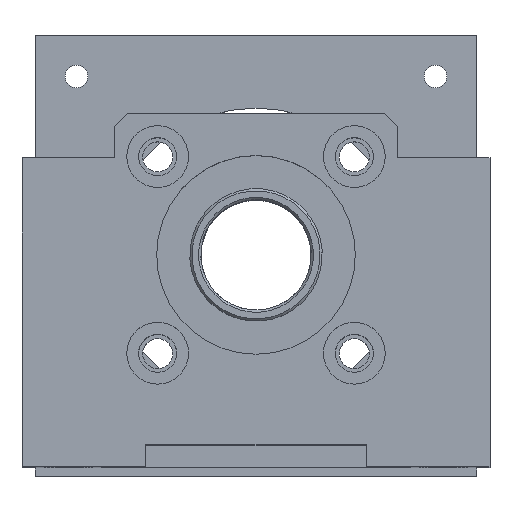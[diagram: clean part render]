
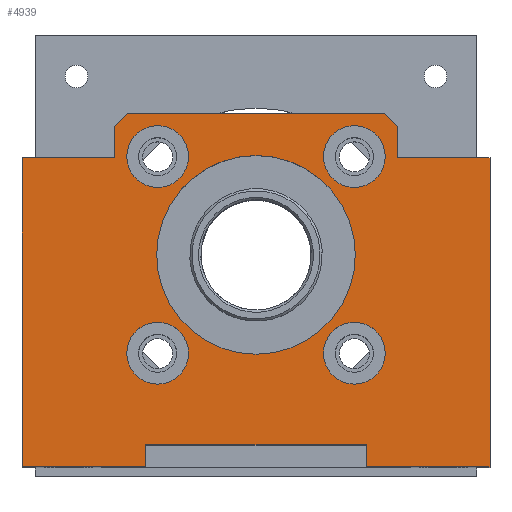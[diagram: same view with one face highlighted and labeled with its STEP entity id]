
A CAD part, top view. The second image highlights one B-rep face of the part: STEP entity #4939.
In plain terms, the highlighted planar face has unit normal (0, 0, 1).
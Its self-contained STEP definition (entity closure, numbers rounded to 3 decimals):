
#2011=DIRECTION('',(1.,0.,0.));
#2012=VECTOR('',#2011,28.);
#2013=CARTESIAN_POINT('',(-53.,-48.,257.));
#2014=LINE('',#2013,#2012);
#2074=DIRECTION('',(1.,0.,0.));
#2075=VECTOR('',#2074,28.);
#2076=CARTESIAN_POINT('',(25.,-48.,257.));
#2077=LINE('',#2076,#2075);
#2263=DIRECTION('',(-1.,0.,0.));
#2264=VECTOR('',#2263,21.);
#2265=CARTESIAN_POINT('',(-32.,22.,257.));
#2266=LINE('',#2265,#2264);
#2554=DIRECTION('',(-1.,0.,0.));
#2555=VECTOR('',#2554,21.);
#2556=CARTESIAN_POINT('',(53.,22.,257.));
#2557=LINE('',#2556,#2555);
#2666=DIRECTION('',(0.,1.,0.));
#2667=VECTOR('',#2666,7.);
#2668=CARTESIAN_POINT('',(32.,22.,257.));
#2669=LINE('',#2668,#2667);
#2678=DIRECTION('',(0.707,0.707,0.));
#2679=VECTOR('',#2678,4.243);
#2680=CARTESIAN_POINT('',(-32.,29.,257.));
#2681=LINE('',#2680,#2679);
#2682=DIRECTION('',(0.707,-0.707,0.));
#2683=VECTOR('',#2682,4.243);
#2684=CARTESIAN_POINT('',(29.,32.,257.));
#2685=LINE('',#2684,#2683);
#2686=CARTESIAN_POINT('',(22.274,-22.274,257.));
#2687=DIRECTION('',(0.,0.,1.));
#2688=DIRECTION('',(1.,0.,0.));
#2689=AXIS2_PLACEMENT_3D('',#2686,#2687,#2688);
#2691=CARTESIAN_POINT('',(22.274,-22.274,257.));
#2692=DIRECTION('',(0.,0.,1.));
#2693=DIRECTION('',(-1.,0.,0.));
#2694=AXIS2_PLACEMENT_3D('',#2691,#2692,#2693);
#2696=CARTESIAN_POINT('',(-22.274,22.274,257.));
#2697=DIRECTION('',(0.,0.,1.));
#2698=DIRECTION('',(1.,0.,0.));
#2699=AXIS2_PLACEMENT_3D('',#2696,#2697,#2698);
#2701=CARTESIAN_POINT('',(-22.274,22.274,257.));
#2702=DIRECTION('',(0.,0.,1.));
#2703=DIRECTION('',(-1.,0.,0.));
#2704=AXIS2_PLACEMENT_3D('',#2701,#2702,#2703);
#2706=CARTESIAN_POINT('',(-22.274,-22.274,257.));
#2707=DIRECTION('',(0.,0.,1.));
#2708=DIRECTION('',(1.,0.,0.));
#2709=AXIS2_PLACEMENT_3D('',#2706,#2707,#2708);
#2711=CARTESIAN_POINT('',(-22.274,-22.274,257.));
#2712=DIRECTION('',(0.,0.,1.));
#2713=DIRECTION('',(-1.,0.,0.));
#2714=AXIS2_PLACEMENT_3D('',#2711,#2712,#2713);
#2716=CARTESIAN_POINT('',(0.,0.,257.));
#2717=DIRECTION('',(0.,0.,1.));
#2718=DIRECTION('',(1.,0.,0.));
#2719=AXIS2_PLACEMENT_3D('',#2716,#2717,#2718);
#2721=CARTESIAN_POINT('',(0.,0.,257.));
#2722=DIRECTION('',(0.,0.,1.));
#2723=DIRECTION('',(-1.,0.,0.));
#2724=AXIS2_PLACEMENT_3D('',#2721,#2722,#2723);
#2726=CARTESIAN_POINT('',(22.274,22.274,257.));
#2727=DIRECTION('',(0.,0.,1.));
#2728=DIRECTION('',(1.,0.,0.));
#2729=AXIS2_PLACEMENT_3D('',#2726,#2727,#2728);
#2731=CARTESIAN_POINT('',(22.274,22.274,257.));
#2732=DIRECTION('',(0.,0.,1.));
#2733=DIRECTION('',(-1.,0.,0.));
#2734=AXIS2_PLACEMENT_3D('',#2731,#2732,#2733);
#2736=DIRECTION('',(0.,-1.,0.));
#2737=VECTOR('',#2736,5.);
#2738=CARTESIAN_POINT('',(25.,-43.,257.));
#2739=LINE('',#2738,#2737);
#2752=DIRECTION('',(1.,0.,0.));
#2753=VECTOR('',#2752,50.);
#2754=CARTESIAN_POINT('',(-25.,-43.,257.));
#2755=LINE('',#2754,#2753);
#2768=DIRECTION('',(0.,1.,0.));
#2769=VECTOR('',#2768,5.);
#2770=CARTESIAN_POINT('',(-25.,-48.,257.));
#2771=LINE('',#2770,#2769);
#2784=DIRECTION('',(0.,-1.,0.));
#2785=VECTOR('',#2784,35.);
#2786=CARTESIAN_POINT('',(-53.,22.,257.));
#2787=LINE('',#2786,#2785);
#2788=DIRECTION('',(0.,-1.,0.));
#2789=VECTOR('',#2788,35.);
#2790=CARTESIAN_POINT('',(-53.,-13.,257.));
#2791=LINE('',#2790,#2789);
#2820=DIRECTION('',(0.,-1.,0.));
#2821=VECTOR('',#2820,7.);
#2822=CARTESIAN_POINT('',(-32.,29.,257.));
#2823=LINE('',#2822,#2821);
#2840=DIRECTION('',(-1.,0.,0.));
#2841=VECTOR('',#2840,58.);
#2842=CARTESIAN_POINT('',(29.,32.,257.));
#2843=LINE('',#2842,#2841);
#3154=DIRECTION('',(0.,1.,0.));
#3155=VECTOR('',#3154,35.);
#3156=CARTESIAN_POINT('',(53.,-48.,257.));
#3157=LINE('',#3156,#3155);
#3158=DIRECTION('',(0.,1.,0.));
#3159=VECTOR('',#3158,35.);
#3160=CARTESIAN_POINT('',(53.,-13.,257.));
#3161=LINE('',#3160,#3159);
#3695=CARTESIAN_POINT('',(-53.,-48.,257.));
#3696=VERTEX_POINT('',#3695);
#3697=CARTESIAN_POINT('',(-25.,-48.,257.));
#3698=VERTEX_POINT('',#3697);
#3733=CARTESIAN_POINT('',(25.,-48.,257.));
#3734=VERTEX_POINT('',#3733);
#3735=CARTESIAN_POINT('',(53.,-48.,257.));
#3736=VERTEX_POINT('',#3735);
#3831=CARTESIAN_POINT('',(-32.,22.,257.));
#3832=VERTEX_POINT('',#3831);
#3833=CARTESIAN_POINT('',(-53.,22.,257.));
#3834=VERTEX_POINT('',#3833);
#3969=CARTESIAN_POINT('',(53.,22.,257.));
#3970=VERTEX_POINT('',#3969);
#3971=CARTESIAN_POINT('',(32.,22.,257.));
#3972=VERTEX_POINT('',#3971);
#4013=CARTESIAN_POINT('',(32.,29.,257.));
#4014=VERTEX_POINT('',#4013);
#4017=CARTESIAN_POINT('',(25.,-43.,257.));
#4018=VERTEX_POINT('',#4017);
#4019=CARTESIAN_POINT('',(-25.,-43.,257.));
#4020=VERTEX_POINT('',#4019);
#4021=CARTESIAN_POINT('',(-53.,-13.,257.));
#4022=VERTEX_POINT('',#4021);
#4023=CARTESIAN_POINT('',(-32.,29.,257.));
#4024=VERTEX_POINT('',#4023);
#4025=CARTESIAN_POINT('',(-29.,32.,257.));
#4026=VERTEX_POINT('',#4025);
#4027=CARTESIAN_POINT('',(29.,32.,257.));
#4028=VERTEX_POINT('',#4027);
#4029=CARTESIAN_POINT('',(53.,-13.,257.));
#4030=VERTEX_POINT('',#4029);
#4031=CARTESIAN_POINT('',(29.274,-22.274,257.));
#4032=CARTESIAN_POINT('',(15.274,-22.274,257.));
#4033=VERTEX_POINT('',#4031);
#4034=VERTEX_POINT('',#4032);
#4035=CARTESIAN_POINT('',(-15.274,22.274,257.));
#4036=CARTESIAN_POINT('',(-29.274,22.274,257.));
#4037=VERTEX_POINT('',#4035);
#4038=VERTEX_POINT('',#4036);
#4039=CARTESIAN_POINT('',(-15.274,-22.274,257.));
#4040=CARTESIAN_POINT('',(-29.274,-22.274,257.));
#4041=VERTEX_POINT('',#4039);
#4042=VERTEX_POINT('',#4040);
#4043=CARTESIAN_POINT('',(22.5,0.,257.));
#4044=CARTESIAN_POINT('',(-22.5,0.,257.));
#4045=VERTEX_POINT('',#4043);
#4046=VERTEX_POINT('',#4044);
#4047=CARTESIAN_POINT('',(29.274,22.274,257.));
#4048=CARTESIAN_POINT('',(15.274,22.274,257.));
#4049=VERTEX_POINT('',#4047);
#4050=VERTEX_POINT('',#4048);
#4875=CARTESIAN_POINT('',(0.,0.,257.));
#4876=DIRECTION('',(0.,0.,-1.));
#4877=DIRECTION('',(1.,0.,0.));
#4878=AXIS2_PLACEMENT_3D('',#4875,#4876,#4877);
#4879=PLANE('',#4878);
#4880=ORIENTED_EDGE('',*,*,#4275,.F.);
#4882=ORIENTED_EDGE('',*,*,#4881,.F.);
#4884=ORIENTED_EDGE('',*,*,#4883,.F.);
#4886=ORIENTED_EDGE('',*,*,#4885,.F.);
#4887=ORIENTED_EDGE('',*,*,#4237,.F.);
#4889=ORIENTED_EDGE('',*,*,#4888,.F.);
#4891=ORIENTED_EDGE('',*,*,#4890,.F.);
#4892=ORIENTED_EDGE('',*,*,#4407,.F.);
#4894=ORIENTED_EDGE('',*,*,#4893,.F.);
#4896=ORIENTED_EDGE('',*,*,#4895,.T.);
#4898=ORIENTED_EDGE('',*,*,#4897,.F.);
#4900=ORIENTED_EDGE('',*,*,#4899,.T.);
#4901=ORIENTED_EDGE('',*,*,#4865,.F.);
#4902=ORIENTED_EDGE('',*,*,#4756,.F.);
#4904=ORIENTED_EDGE('',*,*,#4903,.F.);
#4906=ORIENTED_EDGE('',*,*,#4905,.F.);
#4907=EDGE_LOOP('',(#4880,#4882,#4884,#4886,#4887,#4889,#4891,#4892,#4894,#4896,
#4898,#4900,#4901,#4902,#4904,#4906));
#4908=FACE_OUTER_BOUND('',#4907,.F.);
#4910=ORIENTED_EDGE('',*,*,#4909,.T.);
#4912=ORIENTED_EDGE('',*,*,#4911,.T.);
#4913=EDGE_LOOP('',(#4910,#4912));
#4914=FACE_BOUND('',#4913,.F.);
#4916=ORIENTED_EDGE('',*,*,#4915,.T.);
#4918=ORIENTED_EDGE('',*,*,#4917,.T.);
#4919=EDGE_LOOP('',(#4916,#4918));
#4920=FACE_BOUND('',#4919,.F.);
#4922=ORIENTED_EDGE('',*,*,#4921,.T.);
#4924=ORIENTED_EDGE('',*,*,#4923,.T.);
#4925=EDGE_LOOP('',(#4922,#4924));
#4926=FACE_BOUND('',#4925,.F.);
#4928=ORIENTED_EDGE('',*,*,#4927,.T.);
#4930=ORIENTED_EDGE('',*,*,#4929,.T.);
#4931=EDGE_LOOP('',(#4928,#4930));
#4932=FACE_BOUND('',#4931,.F.);
#4934=ORIENTED_EDGE('',*,*,#4933,.T.);
#4936=ORIENTED_EDGE('',*,*,#4935,.T.);
#4937=EDGE_LOOP('',(#4934,#4936));
#4938=FACE_BOUND('',#4937,.F.);
#2690=CIRCLE('',#2689,7.);
#2695=CIRCLE('',#2694,7.);
#2700=CIRCLE('',#2699,7.);
#2705=CIRCLE('',#2704,7.);
#2710=CIRCLE('',#2709,7.);
#2715=CIRCLE('',#2714,7.);
#2720=CIRCLE('',#2719,22.5);
#2725=CIRCLE('',#2724,22.5);
#2730=CIRCLE('',#2729,7.);
#2735=CIRCLE('',#2734,7.);
#4237=EDGE_CURVE('',#3696,#3698,#2014,.T.);
#4275=EDGE_CURVE('',#3734,#3736,#2077,.T.);
#4407=EDGE_CURVE('',#3832,#3834,#2266,.T.);
#4756=EDGE_CURVE('',#3970,#3972,#2557,.T.);
#4865=EDGE_CURVE('',#3972,#4014,#2669,.T.);
#4881=EDGE_CURVE('',#4018,#3734,#2739,.T.);
#4883=EDGE_CURVE('',#4020,#4018,#2755,.T.);
#4885=EDGE_CURVE('',#3698,#4020,#2771,.T.);
#4888=EDGE_CURVE('',#4022,#3696,#2791,.T.);
#4890=EDGE_CURVE('',#3834,#4022,#2787,.T.);
#4893=EDGE_CURVE('',#4024,#3832,#2823,.T.);
#4895=EDGE_CURVE('',#4024,#4026,#2681,.T.);
#4897=EDGE_CURVE('',#4028,#4026,#2843,.T.);
#4899=EDGE_CURVE('',#4028,#4014,#2685,.T.);
#4903=EDGE_CURVE('',#4030,#3970,#3161,.T.);
#4905=EDGE_CURVE('',#3736,#4030,#3157,.T.);
#4909=EDGE_CURVE('',#4033,#4034,#2690,.T.);
#4911=EDGE_CURVE('',#4034,#4033,#2695,.T.);
#4915=EDGE_CURVE('',#4037,#4038,#2700,.T.);
#4917=EDGE_CURVE('',#4038,#4037,#2705,.T.);
#4921=EDGE_CURVE('',#4041,#4042,#2710,.T.);
#4923=EDGE_CURVE('',#4042,#4041,#2715,.T.);
#4927=EDGE_CURVE('',#4045,#4046,#2720,.T.);
#4929=EDGE_CURVE('',#4046,#4045,#2725,.T.);
#4933=EDGE_CURVE('',#4049,#4050,#2730,.T.);
#4935=EDGE_CURVE('',#4050,#4049,#2735,.T.);
#4939=ADVANCED_FACE('',(#4908,#4914,#4920,#4926,#4932,#4938),#4879,.F.);
